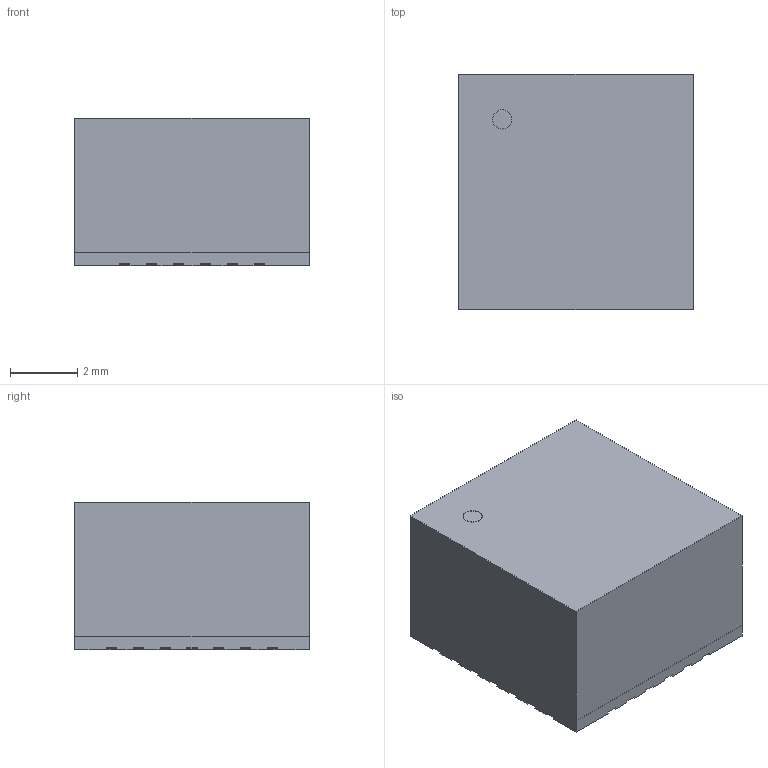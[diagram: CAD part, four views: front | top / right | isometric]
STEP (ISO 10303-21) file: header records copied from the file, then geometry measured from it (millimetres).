
FILE_DESCRIPTION (( 'STEP AP214' ), '1' );
FILE_NAME ('RPL-20_20230629.STEP', '2024-02-19T08:14:13', ( '' ), ( '' ), 'SwSTEP 2.0', 'SolidWorks 2023', '' );
FILE_SCHEMA (( 'AUTOMOTIVE_DESIGN' ));
Length unit declared in the file: inch
Products named in the file (2): RPL-20_20230629; RPL-10_20230629
Assembly tree (1 placements, depth 2):
  RPL-20_20230629
    RPL-10_20230629
Bounding box: 7 x 7 x 4.4 mm (x, y, z)
Volume: 215.2 mm3; surface area: 321.1 mm2
Topology: 2 solids, 2 shells, 247 faces, 714 edges, 476 vertices
Faces by surface type: plane 189, cylinder 58
Entity records: 8136 total; most frequent: CARTESIAN_POINT 1441, ORIENTED_EDGE 1428, DIRECTION 1332, EDGE_CURVE 714, VECTOR 598, LINE 598, VERTEX_POINT 476, AXIS2_PLACEMENT_3D 367
